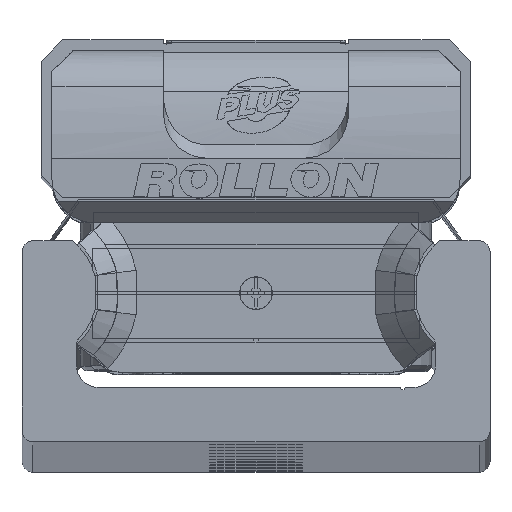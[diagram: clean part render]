
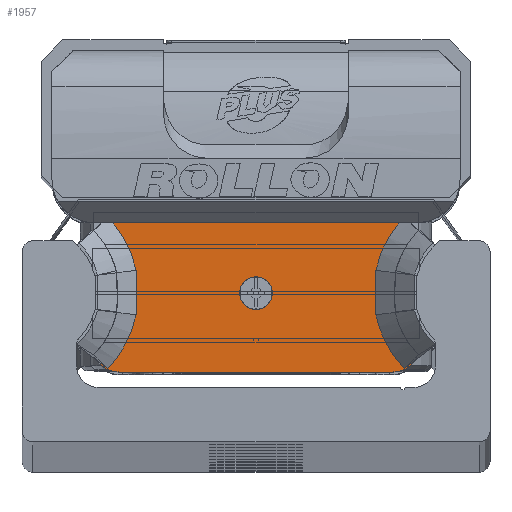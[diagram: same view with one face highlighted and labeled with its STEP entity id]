
A CAD part, top view. The second image highlights one B-rep face of the part: STEP entity #1957.
In plain terms, the highlighted planar face has unit normal (0, 0, 1) as drawn and (0, 0, -1) by its records, which use the part's own axes.
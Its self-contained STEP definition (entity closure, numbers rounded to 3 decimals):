
#1957 = ADVANCED_FACE( '', ( #4141, #4142 ), #4143, .F. );
#4141 = FACE_BOUND( '', #6536, .T. );
#4142 = FACE_OUTER_BOUND( '', #6537, .T. );
#4143 = PLANE( '', #6538 );
#6536 = EDGE_LOOP( '', ( #11804 ) );
#6537 = EDGE_LOOP( '', ( #11805, #11806, #11807, #11808, #11809, #11810, #11811, #11812, #11813, #11814, #11815, #11816 ) );
#6538 = AXIS2_PLACEMENT_3D( '', #11817, #11818, #11819 );
#11804 = ORIENTED_EDGE( '', *, *, #13684, .T. );
#11805 = ORIENTED_EDGE( '', *, *, #14901, .T. );
#11806 = ORIENTED_EDGE( '', *, *, #14844, .F. );
#11807 = ORIENTED_EDGE( '', *, *, #14633, .T. );
#11808 = ORIENTED_EDGE( '', *, *, #13745, .F. );
#11809 = ORIENTED_EDGE( '', *, *, #13756, .T. );
#11810 = ORIENTED_EDGE( '', *, *, #14902, .T. );
#11811 = ORIENTED_EDGE( '', *, *, #14903, .T. );
#11812 = ORIENTED_EDGE( '', *, *, #14213, .T. );
#11813 = ORIENTED_EDGE( '', *, *, #13235, .T. );
#11814 = ORIENTED_EDGE( '', *, *, #14816, .T. );
#11815 = ORIENTED_EDGE( '', *, *, #13848, .T. );
#11816 = ORIENTED_EDGE( '', *, *, #13172, .T. );
#11817 = CARTESIAN_POINT( '', ( 14.9, 7.35, -13.25 ) );
#11818 = DIRECTION( '', ( 0., 0., 1. ) );
#11819 = DIRECTION( '', ( 1., 0., 0. ) );
#13172 = EDGE_CURVE( '', #15752, #15750, #15753, .T. );
#13235 = EDGE_CURVE( '', #15863, #15861, #15864, .T. );
#13684 = EDGE_CURVE( '', #16616, #16616, #16617, .T. );
#13745 = EDGE_CURVE( '', #16711, #16712, #16713, .T. );
#13756 = EDGE_CURVE( '', #16711, #16727, #16729, .T. );
#13848 = EDGE_CURVE( '', #16878, #15752, #16879, .T. );
#14213 = EDGE_CURVE( '', #17412, #15863, #17413, .T. );
#14633 = EDGE_CURVE( '', #17963, #16712, #17964, .T. );
#14816 = EDGE_CURVE( '', #15861, #16878, #18177, .T. );
#14844 = EDGE_CURVE( '', #17963, #15805, #18210, .T. );
#14901 = EDGE_CURVE( '', #15750, #15805, #18273, .T. );
#14902 = EDGE_CURVE( '', #16727, #18274, #18275, .T. );
#14903 = EDGE_CURVE( '', #18274, #17412, #18276, .T. );
#15750 = VERTEX_POINT( '', #19403 );
#15752 = VERTEX_POINT( '', #19406 );
#15753 = B_SPLINE_CURVE_WITH_KNOTS( '', 2, ( #19407, #19408, #19409, #19410, #19411 ), .UNSPECIFIED., .F., .F., ( 3, 2, 3 ), ( 0., 0.5, 1. ), .UNSPECIFIED. );
#15805 = VERTEX_POINT( '', #19473 );
#15861 = VERTEX_POINT( '', #19559 );
#15863 = VERTEX_POINT( '', #19564 );
#15864 = LINE( '', #19565, #19566 );
#16616 = VERTEX_POINT( '', #20577 );
#16617 = CIRCLE( '', #20578, 1.5 );
#16711 = VERTEX_POINT( '', #20706 );
#16712 = VERTEX_POINT( '', #20707 );
#16713 = CIRCLE( '', #20708, 2.5 );
#16727 = VERTEX_POINT( '', #20725 );
#16729 = B_SPLINE_CURVE_WITH_KNOTS( '', 1, ( #20728, #20729 ), .UNSPECIFIED., .F., .F., ( 2, 2 ), ( 0., 1. ), .UNSPECIFIED. );
#16878 = VERTEX_POINT( '', #20953 );
#16879 = B_SPLINE_CURVE_WITH_KNOTS( '', 2, ( #20954, #20955, #20956 ), .UNSPECIFIED., .F., .F., ( 3, 3 ), ( 0., 1. ), .UNSPECIFIED. );
#17412 = VERTEX_POINT( '', #21816 );
#17413 = B_SPLINE_CURVE_WITH_KNOTS( '', 2, ( #21817, #21818, #21819, #21820, #21821 ), .UNSPECIFIED., .F., .F., ( 3, 2, 3 ), ( 0., 0.5, 0.868 ), .UNSPECIFIED. );
#17963 = VERTEX_POINT( '', #22559 );
#17964 = LINE( '', #22560, #22561 );
#18177 = B_SPLINE_CURVE_WITH_KNOTS( '', 2, ( #22865, #22866, #22867, #22868, #22869 ), .UNSPECIFIED., .F., .F., ( 3, 2, 3 ), ( 0.133, 0.5, 1. ), .UNSPECIFIED. );
#18210 = CIRCLE( '', #22911, 2.5 );
#18273 = B_SPLINE_CURVE_WITH_KNOTS( '', 1, ( #22985, #22986 ), .UNSPECIFIED., .F., .F., ( 2, 2 ), ( 0., 1. ), .UNSPECIFIED. );
#18274 = VERTEX_POINT( '', #22987 );
#18275 = B_SPLINE_CURVE_WITH_KNOTS( '', 2, ( #22988, #22989, #22990, #22991, #22992 ), .UNSPECIFIED., .F., .F., ( 3, 2, 3 ), ( 0., 0.5, 1. ), .UNSPECIFIED. );
#18276 = B_SPLINE_CURVE_WITH_KNOTS( '', 2, ( #22993, #22994, #22995 ), .UNSPECIFIED., .F., .F., ( 3, 3 ), ( 0., 1. ), .UNSPECIFIED. );
#19403 = CARTESIAN_POINT( '', ( 13.628, -6.965, -13.25 ) );
#19406 = CARTESIAN_POINT( '', ( 11.012, -2.045, -13.25 ) );
#19407 = CARTESIAN_POINT( '', ( 11.012, -2.045, -13.25 ) );
#19408 = CARTESIAN_POINT( '', ( 11.301, -3.43, -13.25 ) );
#19409 = CARTESIAN_POINT( '', ( 11.972, -4.69, -13.25 ) );
#19410 = CARTESIAN_POINT( '', ( 12.642, -5.95, -13.25 ) );
#19411 = CARTESIAN_POINT( '', ( 13.628, -6.965, -13.25 ) );
#19473 = CARTESIAN_POINT( '', ( 14.906, -5.717, -13.25 ) );
#19559 = CARTESIAN_POINT( '', ( 13.12, 6.4, -13.25 ) );
#19564 = CARTESIAN_POINT( '', ( -13.119, 6.4, -13.25 ) );
#19565 = CARTESIAN_POINT( '', ( 14.9, 6.4, -13.25 ) );
#19566 = VECTOR( '', #23793, 1000. );
#20577 = CARTESIAN_POINT( '', ( 1.5, -0.05, -13.25 ) );
#20578 = AXIS2_PLACEMENT_3D( '', #24418, #24419, #24420 );
#20706 = CARTESIAN_POINT( '', ( -14.904, -5.718, -13.25 ) );
#20707 = CARTESIAN_POINT( '', ( -12.58, -7.3, -13.25 ) );
#20708 = AXIS2_PLACEMENT_3D( '', #24511, #24512, #24513 );
#20725 = CARTESIAN_POINT( '', ( -13.628, -6.965, -13.25 ) );
#20728 = CARTESIAN_POINT( '', ( -14.915, -5.713, -13.25 ) );
#20729 = CARTESIAN_POINT( '', ( -13.628, -6.965, -13.25 ) );
#20953 = CARTESIAN_POINT( '', ( 11.012, 2.045, -13.25 ) );
#20954 = CARTESIAN_POINT( '', ( 11.012, 2.045, -13.25 ) );
#20955 = CARTESIAN_POINT( '', ( 10.888, 0., -13.25 ) );
#20956 = CARTESIAN_POINT( '', ( 11.012, -2.045, -13.25 ) );
#21816 = CARTESIAN_POINT( '', ( -11.012, 2.045, -13.25 ) );
#21817 = CARTESIAN_POINT( '', ( -11.012, 2.045, -13.25 ) );
#21818 = CARTESIAN_POINT( '', ( -11.302, 3.432, -13.25 ) );
#21819 = CARTESIAN_POINT( '', ( -11.967, 4.685, -13.25 ) );
#21820 = CARTESIAN_POINT( '', ( -12.456, 5.606, -13.25 ) );
#21821 = CARTESIAN_POINT( '', ( -13.119, 6.4, -13.25 ) );
#22559 = CARTESIAN_POINT( '', ( 12.58, -7.3, -13.25 ) );
#22560 = CARTESIAN_POINT( '', ( 12.58, -7.3, -13.25 ) );
#22561 = VECTOR( '', #25650, 1000. );
#22865 = CARTESIAN_POINT( '', ( 13.119, 6.4, -13.25 ) );
#22866 = CARTESIAN_POINT( '', ( 12.459, 5.608, -13.25 ) );
#22867 = CARTESIAN_POINT( '', ( 11.968, 4.684, -13.25 ) );
#22868 = CARTESIAN_POINT( '', ( 11.301, 3.427, -13.25 ) );
#22869 = CARTESIAN_POINT( '', ( 11.012, 2.045, -13.25 ) );
#22911 = AXIS2_PLACEMENT_3D( '', #25841, #25842, #25843 );
#22985 = CARTESIAN_POINT( '', ( 13.628, -6.965, -13.25 ) );
#22986 = CARTESIAN_POINT( '', ( 14.9, -5.728, -13.25 ) );
#22987 = CARTESIAN_POINT( '', ( -11.012, -2.045, -13.25 ) );
#22988 = CARTESIAN_POINT( '', ( -13.628, -6.965, -13.25 ) );
#22989 = CARTESIAN_POINT( '', ( -12.638, -5.946, -13.25 ) );
#22990 = CARTESIAN_POINT( '', ( -11.97, -4.691, -13.25 ) );
#22991 = CARTESIAN_POINT( '', ( -11.303, -3.437, -13.25 ) );
#22992 = CARTESIAN_POINT( '', ( -11.012, -2.045, -13.25 ) );
#22993 = CARTESIAN_POINT( '', ( -11.012, -2.045, -13.25 ) );
#22994 = CARTESIAN_POINT( '', ( -10.888, 0., -13.25 ) );
#22995 = CARTESIAN_POINT( '', ( -11.012, 2.045, -13.25 ) );
#23793 = DIRECTION( '', ( 1., 0., 0. ) );
#24418 = CARTESIAN_POINT( '', ( 0., -0.05, -13.25 ) );
#24419 = DIRECTION( '', ( 0., 0., 1. ) );
#24420 = DIRECTION( '', ( 1., 0., 0. ) );
#24511 = CARTESIAN_POINT( '', ( -12.58, -4.8, -13.25 ) );
#24512 = DIRECTION( '', ( 0., 0., 1. ) );
#24513 = DIRECTION( '', ( 1., 0., 0. ) );
#25650 = DIRECTION( '', ( -1., 0., 0. ) );
#25841 = CARTESIAN_POINT( '', ( 12.58, -4.8, -13.25 ) );
#25842 = DIRECTION( '', ( 0., 0., 1. ) );
#25843 = DIRECTION( '', ( 1., 0., 0. ) );
